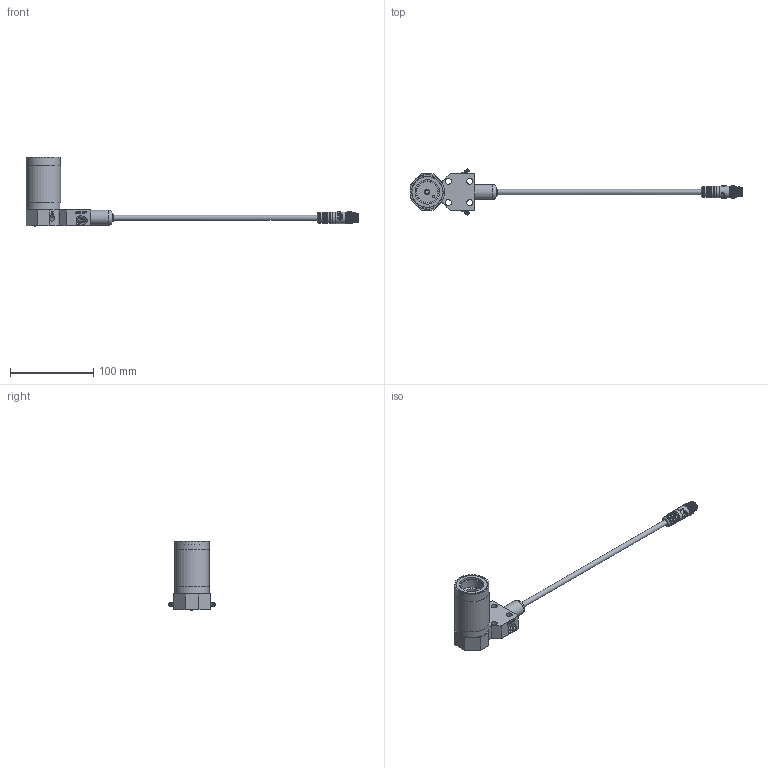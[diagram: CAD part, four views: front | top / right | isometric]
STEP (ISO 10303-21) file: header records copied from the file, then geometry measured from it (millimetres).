
FILE_DESCRIPTION(/* description */ ('ASSY,BODY,VF,IA,SXTR4,NHP_0002712705'),/* implementation_level */ '2;1');
FILE_NAME(/* name */ 'X:\ASSY,BODY,VF,IA,SXTR4,NHP_0002712705.stp',/* time_stamp */ '2021-07-07T14:11:02-04:00',/* author */ ('Simon.Britton'),/* organization */ (''),/* preprocessor_version */ 'ST-DEVELOPER v17',/* originating_system */ 'Autodesk Inventor 2019',/* authorisation */ '');
FILE_SCHEMA (('AUTOMOTIVE_DESIGN { 1 0 10303 214 3 1 1 }'));
Length unit declared in the file: millimetre
Products named in the file (1): ASSY,BODY,VF,IA,SXTR4,NHP_0002712705
Bounding box: 398.59 x 56.28 x 84 mm (x, y, z)
Volume: 119924.7 mm3; surface area: 65377.5 mm2
Topology: 1 solids, 70 shells, 3856 faces, 9037 edges, 5384 vertices
Faces by surface type: bspline 2424, cylinder 689, plane 645, cone 55, torus 26, sphere 17
Full cylindrical faces by diameter (mm): 1 x5, 1.05 x5, 1.25 x10, 1.35 x5, 1.6 x10, 1.8 x5, 1.85 x5, 2 x1, 2.381 x2, 2.464 x1, 2.997 x5, 3.175 x2, 3.734 x4, 3.81 x2, 4.064 x4, 4.216 x4, 4.366 x1, 4.8 x3, 5.7 x1, 6.35 x9, 6.4 x1, 6.5 x1, 7 x1, 7.144 x4, 8.731 x3, 9.4 x1, 9.7 x2, 10.6 x2, 10.9 x1, 12 x4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
Entity records: 251598 total; most frequent: CARTESIAN_POINT 169403, ORIENTED_EDGE 18034, DIRECTION 13321, EDGE_CURVE 9017, AXIS2_PLACEMENT_3D 5778, VERTEX_POINT 5380, CIRCLE 4284, EDGE_LOOP 4018
